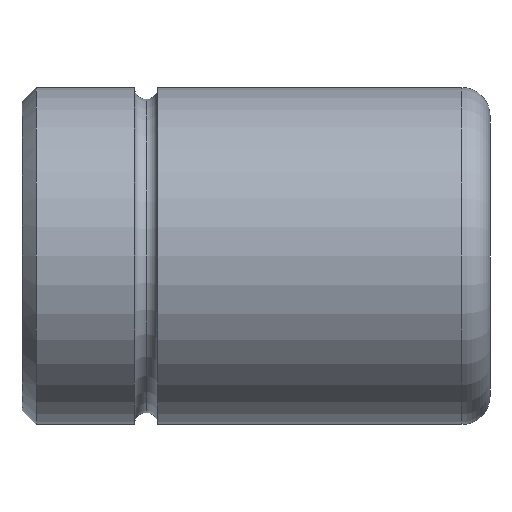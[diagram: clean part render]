
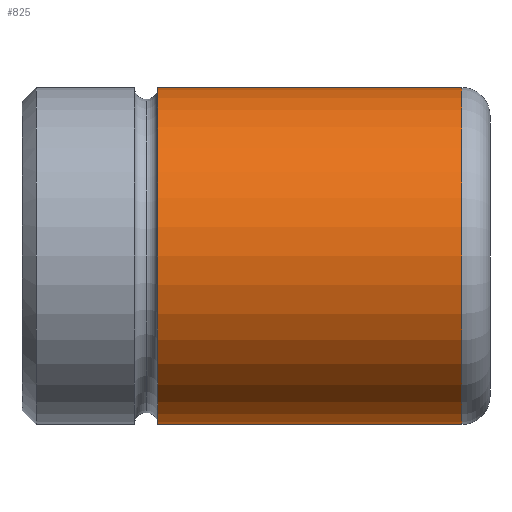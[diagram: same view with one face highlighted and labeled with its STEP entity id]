
A CAD part, front view. The second image highlights one B-rep face of the part: STEP entity #825.
In plain terms, the highlighted cylindrical face has radius 18 mm (diameter 36 mm), a partial arc.
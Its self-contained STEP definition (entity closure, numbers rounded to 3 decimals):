
#641=CARTESIAN_POINT('Vertex',(14.5,0.,18.)) ;
#648=CARTESIAN_POINT('Vertex',(14.5,0.,-18.)) ;
#674=CARTESIAN_POINT('Axis2P3D Location',(14.5,0.,0.)) ;
#678=CARTESIAN_POINT('Vertex',(14.5,-18.,0.)) ;
#681=CARTESIAN_POINT('Axis2P3D Location',(14.5,0.,0.)) ;
#765=CARTESIAN_POINT('Line Origine',(50.,0.,18.)) ;
#769=CARTESIAN_POINT('Vertex',(47.,0.,18.)) ;
#783=CARTESIAN_POINT('Vertex',(47.,0.,-18.)) ;
#786=CARTESIAN_POINT('Line Origine',(50.,0.,-18.)) ;
#800=CARTESIAN_POINT('Axis2P3D Location',(50.,0.,0.)) ;
#805=CARTESIAN_POINT('Axis2P3D Location',(47.,0.,0.)) ;
#809=CARTESIAN_POINT('Vertex',(47.,-18.,0.)) ;
#812=CARTESIAN_POINT('Axis2P3D Location',(47.,0.,0.)) ;
#675=DIRECTION('Axis2P3D Direction',(1.,0.,-0.)) ;
#682=DIRECTION('Axis2P3D Direction',(1.,0.,-0.)) ;
#766=DIRECTION('Vector Direction',(-1.,0.,0.)) ;
#787=DIRECTION('Vector Direction',(-1.,0.,0.)) ;
#801=DIRECTION('Axis2P3D Direction',(-1.,-0.,-0.)) ;
#802=DIRECTION('Axis2P3D XDirection',(0.,0.,-1.)) ;
#806=DIRECTION('Axis2P3D Direction',(-1.,-0.,-0.)) ;
#813=DIRECTION('Axis2P3D Direction',(-1.,-0.,-0.)) ;
#676=AXIS2_PLACEMENT_3D('Circle Axis2P3D',#674,#675,$) ;
#683=AXIS2_PLACEMENT_3D('Circle Axis2P3D',#681,#682,$) ;
#803=AXIS2_PLACEMENT_3D('Cylinder Axis2P3D',#800,#801,#802) ;
#807=AXIS2_PLACEMENT_3D('Circle Axis2P3D',#805,#806,$) ;
#814=AXIS2_PLACEMENT_3D('Circle Axis2P3D',#812,#813,$) ;
#818=ORIENTED_EDGE('',*,*,#790,.T.) ;
#819=ORIENTED_EDGE('',*,*,#811,.F.) ;
#820=ORIENTED_EDGE('',*,*,#816,.F.) ;
#821=ORIENTED_EDGE('',*,*,#771,.T.) ;
#822=ORIENTED_EDGE('',*,*,#685,.T.) ;
#823=ORIENTED_EDGE('',*,*,#680,.T.) ;
#767=VECTOR('Line Direction',#766,1.) ;
#788=VECTOR('Line Direction',#787,1.) ;
#825=ADVANCED_FACE('347-25 x 50',(#824),#804,.T.) ;
#677=CIRCLE('generated circle',#676,18.) ;
#684=CIRCLE('generated circle',#683,18.) ;
#808=CIRCLE('generated circle',#807,18.) ;
#815=CIRCLE('generated circle',#814,18.) ;
#804=CYLINDRICAL_SURFACE('generated cylinder',#803,18.) ;
#680=EDGE_CURVE('',#679,#649,#677,.T.) ;
#685=EDGE_CURVE('',#642,#679,#684,.T.) ;
#771=EDGE_CURVE('',#770,#642,#768,.T.) ;
#790=EDGE_CURVE('',#649,#784,#789,.F.) ;
#811=EDGE_CURVE('',#810,#784,#808,.F.) ;
#816=EDGE_CURVE('',#770,#810,#815,.F.) ;
#817=EDGE_LOOP('',(#818,#819,#820,#821,#822,#823)) ;
#824=FACE_OUTER_BOUND('',#817,.T.) ;
#768=LINE('Line',#765,#767) ;
#789=LINE('Line',#786,#788) ;
#642=VERTEX_POINT('',#641) ;
#649=VERTEX_POINT('',#648) ;
#679=VERTEX_POINT('',#678) ;
#770=VERTEX_POINT('',#769) ;
#784=VERTEX_POINT('',#783) ;
#810=VERTEX_POINT('',#809) ;
